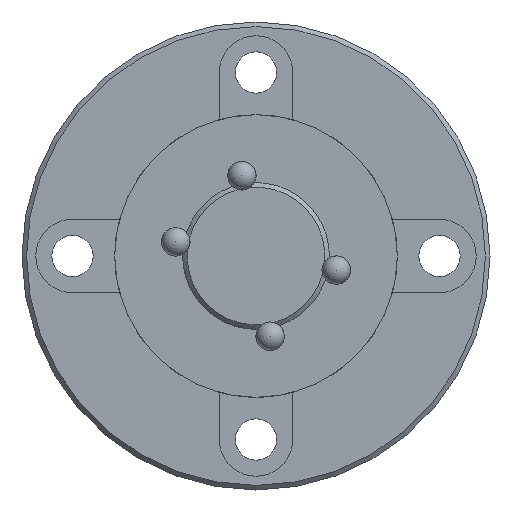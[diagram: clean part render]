
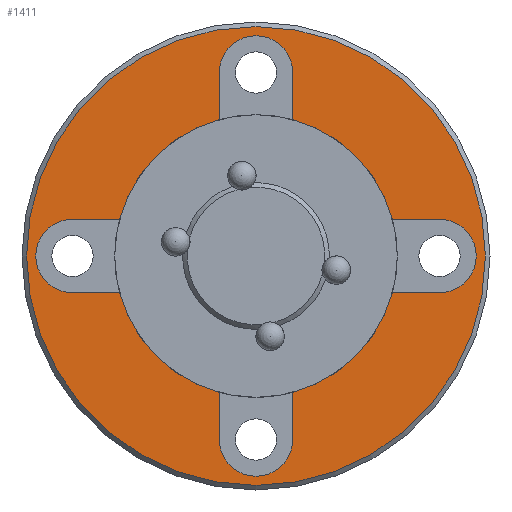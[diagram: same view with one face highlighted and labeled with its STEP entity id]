
A CAD part, left-side view. The second image highlights one B-rep face of the part: STEP entity #1411.
In plain terms, the highlighted planar face has unit normal (-1, 0, 0).
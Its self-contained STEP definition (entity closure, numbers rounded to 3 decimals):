
#54=PLANE('',#1575);
#168=CIRCLE('',#1558,15.4);
#170=CIRCLE('',#1560,15.4);
#172=CIRCLE('',#1562,15.4);
#174=CIRCLE('',#1564,15.4);
#180=CIRCLE('',#1573,25.);
#182=CIRCLE('',#1576,4.);
#183=CIRCLE('',#1577,4.);
#184=CIRCLE('',#1578,4.);
#185=CIRCLE('',#1579,4.);
#396=ORIENTED_EDGE('',*,*,#701,.T.);
#397=ORIENTED_EDGE('',*,*,#702,.T.);
#398=ORIENTED_EDGE('',*,*,#684,.T.);
#399=ORIENTED_EDGE('',*,*,#703,.T.);
#400=ORIENTED_EDGE('',*,*,#704,.T.);
#401=ORIENTED_EDGE('',*,*,#705,.T.);
#402=ORIENTED_EDGE('',*,*,#680,.T.);
#403=ORIENTED_EDGE('',*,*,#706,.T.);
#404=ORIENTED_EDGE('',*,*,#707,.T.);
#405=ORIENTED_EDGE('',*,*,#708,.T.);
#406=ORIENTED_EDGE('',*,*,#676,.T.);
#407=ORIENTED_EDGE('',*,*,#709,.T.);
#408=ORIENTED_EDGE('',*,*,#710,.T.);
#409=ORIENTED_EDGE('',*,*,#711,.T.);
#410=ORIENTED_EDGE('',*,*,#688,.T.);
#411=ORIENTED_EDGE('',*,*,#712,.T.);
#412=ORIENTED_EDGE('',*,*,#699,.T.);
#676=EDGE_CURVE('',#846,#844,#168,.T.);
#680=EDGE_CURVE('',#850,#849,#170,.T.);
#684=EDGE_CURVE('',#854,#853,#172,.T.);
#688=EDGE_CURVE('',#858,#857,#174,.T.);
#699=EDGE_CURVE('',#867,#867,#180,.T.);
#701=EDGE_CURVE('',#869,#870,#182,.T.);
#702=EDGE_CURVE('',#870,#854,#947,.T.);
#703=EDGE_CURVE('',#853,#871,#948,.T.);
#704=EDGE_CURVE('',#871,#872,#183,.T.);
#705=EDGE_CURVE('',#872,#850,#949,.T.);
#706=EDGE_CURVE('',#849,#873,#950,.T.);
#707=EDGE_CURVE('',#873,#874,#184,.T.);
#708=EDGE_CURVE('',#874,#846,#951,.T.);
#709=EDGE_CURVE('',#844,#875,#952,.T.);
#710=EDGE_CURVE('',#875,#876,#185,.T.);
#711=EDGE_CURVE('',#876,#858,#953,.T.);
#712=EDGE_CURVE('',#857,#869,#954,.T.);
#844=VERTEX_POINT('',#2692);
#846=VERTEX_POINT('',#2695);
#849=VERTEX_POINT('',#2701);
#850=VERTEX_POINT('',#2703);
#853=VERTEX_POINT('',#2709);
#854=VERTEX_POINT('',#2711);
#857=VERTEX_POINT('',#2717);
#858=VERTEX_POINT('',#2719);
#867=VERTEX_POINT('',#2764);
#869=VERTEX_POINT('',#2769);
#870=VERTEX_POINT('',#2770);
#871=VERTEX_POINT('',#2773);
#872=VERTEX_POINT('',#2775);
#873=VERTEX_POINT('',#2778);
#874=VERTEX_POINT('',#2780);
#875=VERTEX_POINT('',#2783);
#876=VERTEX_POINT('',#2785);
#947=LINE('',#2771,#995);
#948=LINE('',#2772,#996);
#949=LINE('',#2776,#997);
#950=LINE('',#2777,#998);
#951=LINE('',#2781,#999);
#952=LINE('',#2782,#1000);
#953=LINE('',#2786,#1001);
#954=LINE('',#2787,#1002);
#995=VECTOR('',#1873,1000.);
#996=VECTOR('',#1874,1000.);
#997=VECTOR('',#1877,1000.);
#998=VECTOR('',#1878,1000.);
#999=VECTOR('',#1881,1000.);
#1000=VECTOR('',#1882,1000.);
#1001=VECTOR('',#1885,1000.);
#1002=VECTOR('',#1886,1000.);
#1085=EDGE_LOOP('',(#396,#397,#398,#399,#400,#401,#402,#403,#404,#405,#406,
#407,#408,#409,#410,#411));
#1086=EDGE_LOOP('',(#412));
#1247=FACE_BOUND('',#1085,.T.);
#1248=FACE_BOUND('',#1086,.T.);
#1411=ADVANCED_FACE('',(#1247,#1248),#54,.F.);
#1558=AXIS2_PLACEMENT_3D('',#2694,#1827,#1828);
#1560=AXIS2_PLACEMENT_3D('',#2702,#1833,#1834);
#1562=AXIS2_PLACEMENT_3D('',#2710,#1839,#1840);
#1564=AXIS2_PLACEMENT_3D('',#2718,#1845,#1846);
#1573=AXIS2_PLACEMENT_3D('',#2763,#1865,#1866);
#1575=AXIS2_PLACEMENT_3D('',#2767,#1869,#1870);
#1576=AXIS2_PLACEMENT_3D('',#2768,#1871,#1872);
#1577=AXIS2_PLACEMENT_3D('',#2774,#1875,#1876);
#1578=AXIS2_PLACEMENT_3D('',#2779,#1879,#1880);
#1579=AXIS2_PLACEMENT_3D('',#2784,#1883,#1884);
#1827=DIRECTION('',(1.,0.,0.));
#1828=DIRECTION('',(0.,0.,-1.));
#1833=DIRECTION('',(1.,0.,0.));
#1834=DIRECTION('',(0.,0.,-1.));
#1839=DIRECTION('',(1.,0.,0.));
#1840=DIRECTION('',(0.,0.,-1.));
#1845=DIRECTION('',(1.,0.,0.));
#1846=DIRECTION('',(0.,0.,-1.));
#1865=DIRECTION('',(-1.,0.,0.));
#1866=DIRECTION('',(0.,0.,1.));
#1869=DIRECTION('',(1.,0.,0.));
#1870=DIRECTION('',(0.,0.,-1.));
#1871=DIRECTION('',(1.,0.,0.));
#1872=DIRECTION('',(0.,-1.,0.));
#1873=DIRECTION('',(0.,-1.,0.));
#1874=DIRECTION('',(0.,0.,1.));
#1875=DIRECTION('',(1.,0.,0.));
#1876=DIRECTION('',(0.,1.,0.));
#1877=DIRECTION('',(0.,0.,-1.));
#1878=DIRECTION('',(0.,-1.,0.));
#1879=DIRECTION('',(1.,0.,0.));
#1880=DIRECTION('',(0.,1.,0.));
#1881=DIRECTION('',(0.,1.,0.));
#1882=DIRECTION('',(0.,0.,-1.));
#1883=DIRECTION('',(1.,0.,0.));
#1884=DIRECTION('',(0.,-1.,0.));
#1885=DIRECTION('',(0.,0.,1.));
#1886=DIRECTION('',(0.,1.,0.));
#2692=CARTESIAN_POINT('',(-25.,-4.,-14.871));
#2694=CARTESIAN_POINT('',(-25.,0.,0.));
#2695=CARTESIAN_POINT('',(-25.,-14.871,-4.));
#2701=CARTESIAN_POINT('',(-25.,-14.871,4.));
#2702=CARTESIAN_POINT('',(-25.,0.,0.));
#2703=CARTESIAN_POINT('',(-25.,-4.,14.871));
#2709=CARTESIAN_POINT('',(-25.,4.,14.871));
#2710=CARTESIAN_POINT('',(-25.,0.,0.));
#2711=CARTESIAN_POINT('',(-25.,14.871,4.));
#2717=CARTESIAN_POINT('',(-25.,14.871,-4.));
#2718=CARTESIAN_POINT('',(-25.,0.,0.));
#2719=CARTESIAN_POINT('',(-25.,4.,-14.871));
#2763=CARTESIAN_POINT('',(-25.,0.,0.));
#2764=CARTESIAN_POINT('',(-25.,0.,25.));
#2767=CARTESIAN_POINT('',(-25.,25.,0.));
#2768=CARTESIAN_POINT('',(-25.,20.,0.));
#2769=CARTESIAN_POINT('',(-25.,20.,-4.));
#2770=CARTESIAN_POINT('',(-25.,20.,4.));
#2771=CARTESIAN_POINT('',(-25.,20.,4.));
#2772=CARTESIAN_POINT('',(-25.,4.,4.));
#2773=CARTESIAN_POINT('',(-25.,4.,20.));
#2774=CARTESIAN_POINT('',(-25.,0.,20.));
#2775=CARTESIAN_POINT('',(-25.,-4.,20.));
#2776=CARTESIAN_POINT('',(-25.,-4.,20.));
#2777=CARTESIAN_POINT('',(-25.,-4.,4.));
#2778=CARTESIAN_POINT('',(-25.,-20.,4.));
#2779=CARTESIAN_POINT('',(-25.,-20.,0.));
#2780=CARTESIAN_POINT('',(-25.,-20.,-4.));
#2781=CARTESIAN_POINT('',(-25.,-20.,-4.));
#2782=CARTESIAN_POINT('',(-25.,-4.,-4.));
#2783=CARTESIAN_POINT('',(-25.,-4.,-20.));
#2784=CARTESIAN_POINT('',(-25.,0.,-20.));
#2785=CARTESIAN_POINT('',(-25.,4.,-20.));
#2786=CARTESIAN_POINT('',(-25.,4.,-20.));
#2787=CARTESIAN_POINT('',(-25.,4.,-4.));
